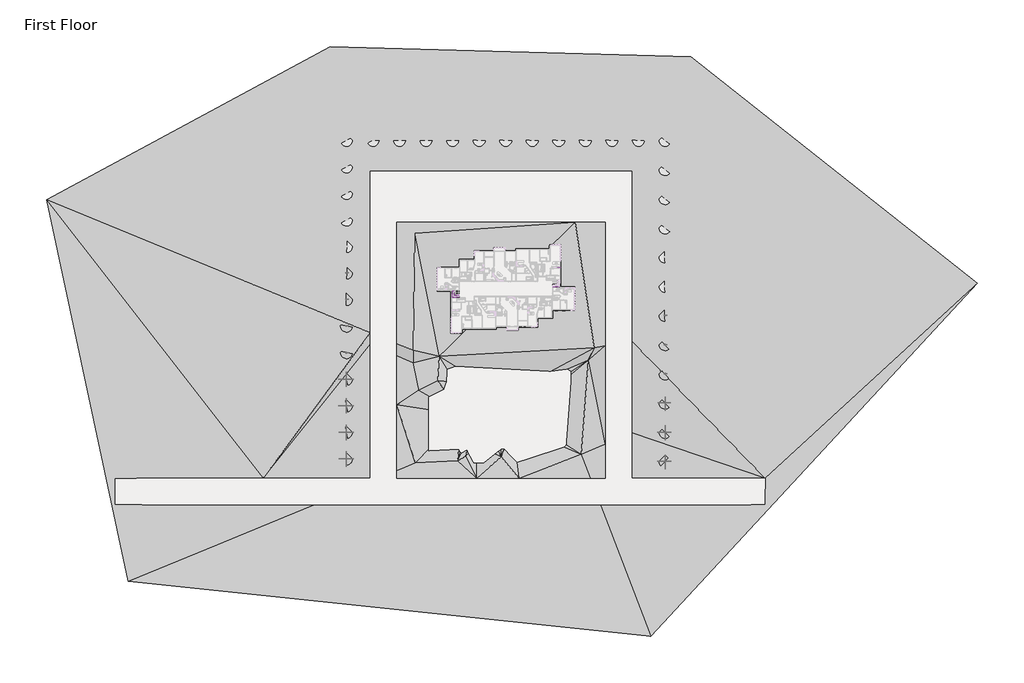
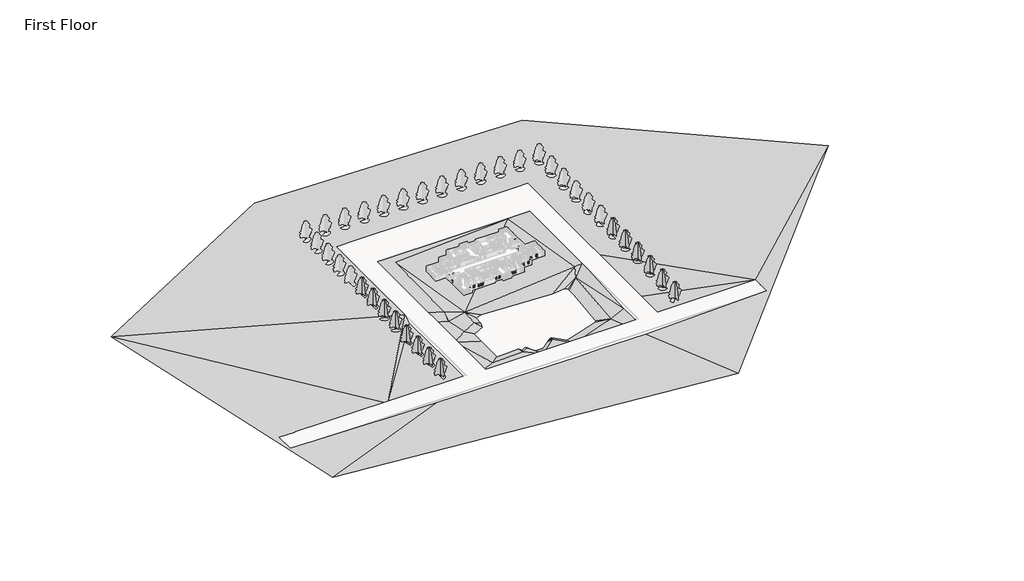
# One storey, part 16 of 17: 57 proxies, 14 geographic elements, 10 members, 5 furniture elements.
"""IFC4 building model written with IfcOpenShell, lengths in millimetres."""

from ifc_helpers import new_model, si_unit, frame, origin, place, context, project, spatial, polyline, outline, extrude, faceted_brep, triangles, transform, mapped, element, save
from components import muntin_pattern_2x2_muntin_pattern_2x2_6dad3731, muntin_pattern_2x2_muntin_pattern_2x2_a30a3345, trim_window_exterior_flat_with_sill_92b9b949, trim_window_interior_flat_picture_frame_3bb882cf, furniture_0fc2bd2a, furniture_338da5bd, base_cabinet_filler_base_cabinet_filler_dff9ed13, furniture_de2c603d, rpc_tree_deciduous_lombardy_poplar_40_01077960

model = new_model("IFC4")

# Units and contexts
model_context = context("Model", 3, world=origin())
ifc_project = project(units=[si_unit("LENGTHUNIT", "METRE", prefix="MILLI")], contexts=[model_context])

# Site, building, storey
site = spatial("IfcSite", under=ifc_project)
building = spatial("IfcBuilding", under=site)
storey = spatial("IfcBuildingStorey", under=building, Name="First Floor", Elevation=0.0)

# Proxies
placement = place(None, origin())
element("IfcBuildingElementProxy", 1, Name="Building Element Proxy", at=placement, inside=storey, context=model_context, shape_type="Tessellation", body=[
    triangles([(-48460.1211182, 110115.7437744, 304.8), (-178837.251416, 39743.5787476, 304.8), (-141203.4834229, -135541.2150879, 304.8), (98701.2405029, -160583.0167969, 304.8), (248652.2271973, 1448.9185364, 304.8), (116964.7861816, 105489.337793, 304.8), (-17909.1719604, 52775.2623779, -34.9011105), (31524.7850647, 52775.2623779, -33.965355), (83444.2275879, 52775.2623779, -25.0386334), (87495.8872559, 52775.2623779, -24.3420144), (89852.8503662, 52775.2623779, -16.2770543), (89852.8503662, 21778.2892822, -150.5260228), (89852.8503662, -25218.4676697, -153.5440435), (89852.8503662, -67179.4157227, -2621.8704872), (89852.8503662, -88050.3836426, -2028.6346046), (151203.4032715, -88050.3836426, -144.3150738), (151203.4032715, -100242.3836426, 202.2300071), (75573.8149658, -100242.3836426, -2120.6552959), (48310.8046509, -100242.3836426, -2152.7139496), (32115.7908508, -100242.3836426, -2209.8783382), (16618.5332977, -100242.3836426, -2240.1732914), (-55784.8461182, -100242.3836426, -1868.6651539), (-87584.1516357, -100242.3836426, -1043.9436916), (-95245.4514404, -100242.3836426, -874.3327509), (-147500.5967285, -100242.3836426, 276.5738341), (-147500.5967285, -88050.3836426, 218.9211758), (-79371.825, -88050.3836426, -1281.5979355), (-69064.3564819, -88050.3836426, -1509.7915649), (-30101.1719604, -88050.3836426, -2520.3098259), (-30101.1719604, -62400.0330322, -2489.8736023), (-30101.1719604, -50207.2470337, -2545.7216469), (-30101.1719604, -26457.4315796, -2658.0281639), (-30101.1719604, -21330.0398987, -143.8852944), (-30101.1719604, 26234.0940491, -142.1650779), (-30101.1719604, 52775.2623779, -15.6820642), (-22594.9766418, 52775.2623779, -34.989811), (77660.8457153, 29542.5921021, -158.6166445), (74508.0614136, 29542.5921021, -169.4047215), (63932.3022949, 29542.5921021, -171.2230516), (-12115.186084, 29542.5921021, -172.6625895), (-17909.1719604, 29542.5921021, -157.7590661), (-17909.1719604, 25126.7128052, -178.8031122), (-17909.1719604, -26336.2878113, -180.6643358), (-17909.1719604, -31883.9747681, -2900.8932816), (-17909.1719604, -40842.9814087, -2858.5284256), (-17909.1719604, -54373.7648071, -2796.551976), (-17909.1719604, -84590.4552979, -2832.4064735), (-17909.1719604, -88050.3836426, -2662.3273201), (33.4827991, -88050.3836426, -2754.3926308), (18662.0062408, -88050.3836426, -2717.9765396), (38129.2703064, -88050.3836426, -2649.2618385), (70900.8490356, -88050.3836426, -2610.7258186), (77660.8457153, -88050.3836426, -2403.0993931), (77660.8457153, -72448.4336426, -2846.5689812), (77660.8457153, -27265.8868835, -188.7339196), (77660.8457153, 23339.1009888, -185.4841906), (-9790.6477386, 24389.31828, -203.2000061), (71482.283313, 24130.0736389, -203.2000061), (72648.8818726, -28107.5517883, -203.2000061), (-10438.757016, -29403.770343, -203.2000061), (792.0111769, -43440.5251831, -3048.0), (-10524.3041199, -35170.9113464, -3048.0), (9923.4082397, -80131.3507324, -3048.0), (69995.6345215, -33865.1817444, -3048.0), (66731.3128418, -77171.8523071, -3048.0), (-9436.1972809, -81089.0411133, -3048.0), (29953.2856384, -78259.9579834, -3048.0), (13631.67724, -78042.3340576, -3048.0), (-7912.8472412, -47792.9525391, -3048.0), (1444.8756145, -32124.2089417, -3048.0), (8844.0049393, -44093.3876587, -6096.0), (27559.4503601, -56062.5687012, -9144.0), (31259.0152405, -56715.4358276, -9144.0), (31259.0152405, -53015.8709473, -9144.0), (29988.7997498, -54980.8068237, -9144.0), (29490.8138672, -55763.3590576, -9144.0), (30273.3637756, -55621.0747192, -9144.0), (30557.9254761, -56047.9230835, -9144.0), (29846.5177368, -55692.214563, -9144.0), (30202.2216064, -55478.7950317, -9144.0), (29704.2357239, -55549.9348755, -9144.0), (30202.2216064, -55336.5106934, -9144.0), (29704.2357239, -55336.5106934, -9144.0), (29775.3778931, -55336.5106934, -9144.0), (29846.5177368, -55336.5106934, -9144.0), (29988.7997498, -55478.7950317, -9144.0), (30131.0817627, -55549.9348755, -9144.0), (30131.0817627, -55763.3590576, -9144.0), (29988.7997498, -55692.214563, -9144.0), (29917.6575806, -55692.214563, -9144.0), (29917.6575806, -55549.9348755, -9144.0), (29917.6575806, -55478.7950317, -9144.0), (29775.3778931, -55478.7950317, -9144.0), (30344.5036194, -55692.214563, -9144.0), (29704.2357239, -55763.3590576, -9144.0), (30131.0817627, -55834.4989014, -9144.0), (29775.3778931, -55763.3590576, -9144.0), (29917.6575806, -55621.0747192, -9144.0), (30059.9395935, -55621.0747192, -9144.0), (29988.7997498, -55621.0747192, -9144.0), (30273.3637756, -54340.5389282, -9144.0), (30842.489502, -53202.2874756, -9144.0), (31198.1933716, -52562.0195801, -9144.0), (32478.7291626, -54340.5389282, -9144.0), (33545.8407715, -55763.3590576, -9144.0), (32905.572876, -57043.8948486, -9144.0), (29775.3778931, -58111.0064575, -9144.0), (27285.4484802, -58537.8501709, -9144.0), (24510.9550415, -57613.0182495, -9144.0), (25506.9268066, -55407.655188, -9144.0), (27427.7281677, -53984.8350586, -9144.0), (31696.1792542, -52704.2992676, -9144.0), (33190.1369019, -54055.9795532, -9144.0), (34186.108667, -56617.0464844, -9144.0), (32976.7150452, -57755.3025879, -9144.0), (11942.7059143, -58928.4170288, -9144.0), (20030.3796936, -59923.8260376, -9144.0), (21523.4908813, -60794.8054321, -9144.0), (23141.024707, -61416.9348999, -9144.0), (20154.8069824, -62536.7642212, -9144.0), (17666.2914368, -62785.6187988, -9144.0), (15799.9041962, -63283.3186523, -9144.0), (14555.6464233, -63781.0231567, -9144.0), (18910.5492096, -64403.1526245, -9144.0), (22270.0453125, -64776.4275146, -9144.0), (25131.8380737, -64652.0025513, -9144.0), (30482.1463806, -64154.3026978, -9144.0), (35085.9002563, -63781.0231567, -9144.0), (25380.6880005, -64776.4275146, -9144.0), (20776.9364502, -65647.4115601, -9144.0), (16048.7564484, -66393.9659912, -9144.0), (18537.271994, -66269.536377, -9144.0), (21772.3408081, -66891.6658447, -9144.0), (15675.4792328, -52831.5566162, -9144.0), (21274.6386292, -51338.4477539, -9144.0), (31353.1257751, -50467.4637085, -9144.0), (38445.3951965, -54946.7949463, -9144.0), (39067.5223389, -59426.1215332, -9144.0), (24385.2836426, -68260.3497437, -9144.0), (18288.4197418, -69006.9041748, -9144.0), (18786.1230835, -72864.1059448, -9144.0)], [[25, 3, 24], [3, 25, 2], [3, 23, 24], [25, 26, 2], [22, 23, 3], [2, 26, 27], [28, 31, 27], [47, 66, 46], [48, 66, 47], [29, 30, 28], [66, 49, 63], [49, 66, 48], [123, 63, 131], [50, 68, 63], [131, 63, 68], [66, 63, 116], [63, 49, 50], [63, 123, 116], [21, 22, 4], [30, 31, 28], [131, 141, 140], [132, 140, 133], [124, 131, 132], [132, 131, 140], [68, 50, 141], [131, 122, 123], [141, 131, 68], [139, 141, 67], [125, 130, 133], [130, 132, 133], [133, 140, 139], [126, 133, 139], [127, 129, 139], [140, 141, 139], [108, 129, 127], [124, 132, 130], [122, 124, 121], [124, 122, 131], [117, 121, 120], [120, 121, 124], [130, 120, 124], [116, 122, 121], [133, 126, 125], [126, 139, 129], [119, 118, 120], [119, 125, 126], [108, 119, 126], [118, 119, 109], [126, 129, 108], [119, 120, 125], [130, 125, 120], [116, 123, 122], [141, 50, 67], [22, 3, 4], [120, 118, 117], [33, 27, 32], [27, 33, 2], [45, 62, 44], [69, 62, 45], [60, 43, 44], [42, 43, 57], [45, 46, 69], [2, 34, 35], [2, 33, 34], [1, 35, 36], [35, 1, 2], [42, 40, 41], [57, 40, 42], [36, 7, 1], [1, 7, 8], [60, 44, 62], [32, 27, 31], [134, 116, 117], [117, 116, 121], [117, 109, 135], [110, 109, 72], [118, 109, 117], [110, 135, 109], [108, 72, 109], [76, 72, 107], [76, 95, 81], [107, 95, 76], [81, 95, 79], [72, 76, 111], [108, 107, 72], [110, 72, 111], [119, 108, 109], [76, 83, 111], [70, 62, 61], [69, 116, 61], [60, 57, 43], [70, 57, 60], [62, 70, 60], [61, 62, 69], [117, 135, 134], [135, 110, 111], [136, 70, 71], [71, 70, 61], [135, 71, 134], [135, 136, 71], [70, 39, 57], [71, 61, 116], [134, 71, 116], [135, 111, 136], [57, 39, 40], [116, 69, 46], [46, 66, 116], [76, 81, 83], [96, 107, 78], [95, 107, 96], [97, 96, 90], [97, 95, 96], [108, 127, 107], [95, 97, 79], [115, 107, 127], [67, 128, 127], [104, 94, 78], [78, 107, 73], [67, 50, 51], [115, 73, 107], [96, 78, 94], [79, 90, 98], [90, 96, 89], [98, 89, 100], [89, 98, 90], [79, 97, 90], [98, 81, 79], [88, 94, 77], [94, 88, 96], [99, 100, 89], [99, 88, 77], [99, 77, 87], [100, 99, 86], [77, 94, 82], [99, 89, 88], [88, 89, 96], [98, 100, 91], [104, 78, 73], [98, 91, 81], [18, 19, 4], [51, 52, 65], [17, 4, 5], [52, 53, 65], [17, 5, 16], [18, 4, 17], [19, 20, 4], [16, 14, 15], [106, 115, 114], [115, 106, 73], [137, 105, 114], [114, 105, 106], [115, 138, 114], [106, 105, 73], [138, 65, 64], [65, 53, 54], [65, 138, 128], [54, 64, 65], [137, 114, 138], [128, 138, 115], [65, 128, 51], [127, 128, 115], [16, 13, 14], [128, 67, 51], [20, 21, 4], [73, 105, 104], [83, 93, 84], [83, 81, 93], [84, 85, 75], [85, 84, 93], [93, 92, 85], [83, 84, 75], [100, 86, 91], [86, 99, 87], [91, 86, 92], [86, 87, 80], [85, 86, 82], [92, 86, 85], [77, 80, 87], [91, 92, 93], [81, 91, 93], [82, 86, 80], [75, 82, 101], [82, 75, 85], [103, 111, 102], [104, 74, 102], [104, 102, 101], [111, 101, 102], [74, 112, 103], [104, 112, 74], [59, 70, 136], [136, 103, 112], [111, 103, 136], [136, 112, 113], [74, 103, 102], [82, 104, 101], [75, 101, 111], [80, 77, 82], [83, 75, 111], [105, 113, 104], [94, 104, 82], [136, 113, 137], [136, 137, 64], [138, 64, 137], [136, 64, 59], [58, 59, 55], [55, 59, 64], [13, 5, 12], [12, 5, 11], [64, 54, 55], [39, 70, 59], [16, 5, 13], [58, 56, 38], [56, 58, 55], [38, 39, 58], [56, 37, 38], [58, 39, 59], [10, 11, 6], [10, 6, 9], [6, 8, 9], [5, 6, 11], [113, 112, 104], [137, 113, 105], [8, 6, 1], [139, 67, 127]], closed=False),
])
muntin_pattern_2x2_muntin_pattern_2x2_shape = muntin_pattern_2x2_muntin_pattern_2x2_6dad3731(model_context)
element("IfcBuildingElementProxy", 2, Name="Muntin Pattern_2x2 : Muntin Pattern_2x2", ObjectType="Muntin Pattern_2x2 : Muntin Pattern_2x2", at=placement, inside=storey, context=model_context, shape_type="MappedRepresentation", body=[
    mapped(muntin_pattern_2x2_muntin_pattern_2x2_shape, transform((6897.2956159, -8816.1337391, 984.25), x_axis=(0.0, 1.0, 0.0), y_axis=(-1.0, 0.0, 0.0), z_axis=(0.0, 0.0, 1.0))),
])
element("IfcBuildingElementProxy", 3, Name="Muntin Pattern_2x2 : Muntin Pattern_2x2", ObjectType="Muntin Pattern_2x2 : Muntin Pattern_2x2", at=placement, inside=storey, context=model_context, shape_type="MappedRepresentation", body=[
    mapped(muntin_pattern_2x2_muntin_pattern_2x2_shape, transform((20022.0240862, -19586.3365506, 984.25), x_axis=(-1.0, 0.0, 0.0), y_axis=(0.0, -1.0, 0.0), z_axis=(0.0, 0.0, 1.0))),
])
element("IfcBuildingElementProxy", 4, Name="Muntin Pattern_2x2 : Muntin Pattern_2x2", ObjectType="Muntin Pattern_2x2 : Muntin Pattern_2x2", at=placement, inside=storey, context=model_context, shape_type="MappedRepresentation", body=[
    mapped(muntin_pattern_2x2_muntin_pattern_2x2_shape, transform((14867.9478712, -19586.3365506, 984.25), x_axis=(-1.0, 0.0, 0.0), y_axis=(0.0, -1.0, 0.0), z_axis=(0.0, 0.0, 1.0))),
])
element("IfcBuildingElementProxy", 5, Name="Muntin Pattern_2x2 : Muntin Pattern_2x2", ObjectType="Muntin Pattern_2x2 : Muntin Pattern_2x2", at=placement, inside=storey, context=model_context, shape_type="MappedRepresentation", body=[
    mapped(muntin_pattern_2x2_muntin_pattern_2x2_shape, transform((58934.1771499, -11052.2879097, 984.25), x_axis=(-1.0, 0.0, 0.0), y_axis=(0.0, -1.0, 0.0), z_axis=(0.0, 0.0, 1.0))),
])
element("IfcBuildingElementProxy", 6, Name="Muntin Pattern_2x2 : Muntin Pattern_2x2", ObjectType="Muntin Pattern_2x2 : Muntin Pattern_2x2", at=placement, inside=storey, context=model_context, shape_type="MappedRepresentation", body=[
    mapped(muntin_pattern_2x2_muntin_pattern_2x2_shape, transform((55448.1837704, -11052.2879097, 984.25), x_axis=(-1.0, 0.0, 0.0), y_axis=(0.0, -1.0, 0.0), z_axis=(0.0, 0.0, 1.0))),
])
element("IfcBuildingElementProxy", 7, Name="Muntin Pattern_2x2 : Muntin Pattern_2x2", ObjectType="Muntin Pattern_2x2 : Muntin Pattern_2x2", at=placement, inside=storey, context=model_context, shape_type="MappedRepresentation", body=[
    mapped(muntin_pattern_2x2_muntin_pattern_2x2_shape, transform((53498.7337704, -12446.1129097, 984.25), x_axis=(0.0, -1.0, 0.0), y_axis=(1.0, 0.0, 0.0), z_axis=(0.0, 0.0, 1.0))),
])
element("IfcBuildingElementProxy", 8, Name="Muntin Pattern_2x2 : Muntin Pattern_2x2", ObjectType="Muntin Pattern_2x2 : Muntin Pattern_2x2", at=placement, inside=storey, context=model_context, shape_type="MappedRepresentation", body=[
    mapped(muntin_pattern_2x2_muntin_pattern_2x2_shape, transform((51847.7416075, -14709.8879097, 984.25), x_axis=(-1.0, 0.0, 0.0), y_axis=(0.0, -1.0, 0.0), z_axis=(0.0, 0.0, 1.0))),
])
element("IfcBuildingElementProxy", 9, Name="Muntin Pattern_2x2 : Muntin Pattern_2x2", ObjectType="Muntin Pattern_2x2 : Muntin Pattern_2x2", at=placement, inside=storey, context=model_context, shape_type="MappedRepresentation", body=[
    mapped(muntin_pattern_2x2_muntin_pattern_2x2_shape, transform((48419.9208351, -14709.8879097, 984.25), x_axis=(-1.0, 0.0, 0.0), y_axis=(0.0, -1.0, 0.0), z_axis=(0.0, 0.0, 1.0))),
])
element("IfcBuildingElementProxy", 10, Name="Muntin Pattern_2x2 : Muntin Pattern_2x2", ObjectType="Muntin Pattern_2x2 : Muntin Pattern_2x2", at=placement, inside=storey, context=model_context, shape_type="MappedRepresentation", body=[
    mapped(muntin_pattern_2x2_muntin_pattern_2x2_shape, transform((41098.7095292, -18687.4243072, 984.25), x_axis=(-1.0, 0.0, 0.0), y_axis=(0.0, -1.0, 0.0), z_axis=(0.0, 0.0, 1.0))),
])
element("IfcBuildingElementProxy", 11, Name="Muntin Pattern_2x2 : Muntin Pattern_2x2", ObjectType="Muntin Pattern_2x2 : Muntin Pattern_2x2", at=placement, inside=storey, context=model_context, shape_type="MappedRepresentation", body=[
    mapped(muntin_pattern_2x2_muntin_pattern_2x2_shape, transform((39150.8470292, -18687.4243072, 984.25), x_axis=(-1.0, 0.0, 0.0), y_axis=(0.0, -1.0, 0.0), z_axis=(0.0, 0.0, 1.0))),
])
element("IfcBuildingElementProxy", 12, Name="Muntin Pattern_2x2 : Muntin Pattern_2x2", ObjectType="Muntin Pattern_2x2 : Muntin Pattern_2x2", at=placement, inside=storey, context=model_context, shape_type="MappedRepresentation", body=[
    mapped(muntin_pattern_2x2_muntin_pattern_2x2_shape, transform((31256.6745389, -18699.3191587, 984.25), x_axis=(-1.0, 0.0, 0.0), y_axis=(0.0, -1.0, 0.0), z_axis=(0.0, 0.0, 1.0))),
])
element("IfcBuildingElementProxy", 13, Name="Muntin Pattern_2x2 : Muntin Pattern_2x2", ObjectType="Muntin Pattern_2x2 : Muntin Pattern_2x2", at=placement, inside=storey, context=model_context, shape_type="MappedRepresentation", body=[
    mapped(muntin_pattern_2x2_muntin_pattern_2x2_shape, transform((29037.4365862, -18699.3191587, 984.25), x_axis=(-1.0, 0.0, 0.0), y_axis=(0.0, -1.0, 0.0), z_axis=(0.0, 0.0, 1.0))),
])
element("IfcBuildingElementProxy", 14, Name="Muntin Pattern_2x2 : Muntin Pattern_2x2", ObjectType="Muntin Pattern_2x2 : Muntin Pattern_2x2", at=placement, inside=storey, context=model_context, shape_type="MappedRepresentation", body=[
    mapped(muntin_pattern_2x2_muntin_pattern_2x2_shape, transform((18076.672872, -19586.3365506, 984.25), x_axis=(-1.0, 0.0, 0.0), y_axis=(0.0, -1.0, 0.0), z_axis=(0.0, 0.0, 1.0))),
])
element("IfcBuildingElementProxy", 15, Name="Muntin Pattern_2x2 : Muntin Pattern_2x2", ObjectType="Muntin Pattern_2x2 : Muntin Pattern_2x2", at=placement, inside=storey, context=model_context, shape_type="MappedRepresentation", body=[
    mapped(muntin_pattern_2x2_muntin_pattern_2x2_shape, transform((12023.5634633, -20077.9243287, 984.25), x_axis=(0.0, -1.0, 0.0), y_axis=(1.0, 0.0, 0.0), z_axis=(0.0, 0.0, 1.0))),
])
muntin_pattern_2x2_muntin_pattern_2x2_2_shape = muntin_pattern_2x2_muntin_pattern_2x2_a30a3345(model_context)
element("IfcBuildingElementProxy", 16, Name="Muntin Pattern_2x2 : Muntin Pattern_2x2", ObjectType="Muntin Pattern_2x2 : Muntin Pattern_2x2", at=placement, inside=storey, context=model_context, shape_type="MappedRepresentation", body=[
    mapped(muntin_pattern_2x2_muntin_pattern_2x2_2_shape, transform((6897.2956159, -8209.7087391, 984.25), x_axis=(0.0, -1.0, 0.0), y_axis=(1.0, 0.0, 0.0), z_axis=(0.0, 0.0, 1.0))),
])
element("IfcBuildingElementProxy", 17, Name="Muntin Pattern_2x2 : Muntin Pattern_2x2", ObjectType="Muntin Pattern_2x2 : Muntin Pattern_2x2", at=placement, inside=storey, context=model_context, shape_type="MappedRepresentation", body=[
    mapped(muntin_pattern_2x2_muntin_pattern_2x2_2_shape, transform((19415.5990862, -19586.3365506, 984.25), x_axis=(1.0, 0.0, 0.0), y_axis=(0.0, 1.0, 0.0), z_axis=(0.0, 0.0, 1.0))),
])
element("IfcBuildingElementProxy", 18, Name="Muntin Pattern_2x2 : Muntin Pattern_2x2", ObjectType="Muntin Pattern_2x2 : Muntin Pattern_2x2", at=placement, inside=storey, context=model_context, shape_type="MappedRepresentation", body=[
    mapped(muntin_pattern_2x2_muntin_pattern_2x2_2_shape, transform((14261.5228712, -19586.3365506, 984.25), x_axis=(1.0, 0.0, 0.0), y_axis=(0.0, 1.0, 0.0), z_axis=(0.0, 0.0, 1.0))),
])
element("IfcBuildingElementProxy", 19, Name="Muntin Pattern_2x2 : Muntin Pattern_2x2", ObjectType="Muntin Pattern_2x2 : Muntin Pattern_2x2", at=placement, inside=storey, context=model_context, shape_type="MappedRepresentation", body=[
    mapped(muntin_pattern_2x2_muntin_pattern_2x2_2_shape, transform((58327.7521499, -11052.2879097, 984.25), x_axis=(1.0, 0.0, 0.0), y_axis=(0.0, 1.0, 0.0), z_axis=(0.0, 0.0, 1.0))),
])
element("IfcBuildingElementProxy", 20, Name="Muntin Pattern_2x2 : Muntin Pattern_2x2", ObjectType="Muntin Pattern_2x2 : Muntin Pattern_2x2", at=placement, inside=storey, context=model_context, shape_type="MappedRepresentation", body=[
    mapped(muntin_pattern_2x2_muntin_pattern_2x2_2_shape, transform((54841.7587704, -11052.2879097, 984.25), x_axis=(1.0, 0.0, 0.0), y_axis=(0.0, 1.0, 0.0), z_axis=(0.0, 0.0, 1.0))),
])
element("IfcBuildingElementProxy", 21, Name="Muntin Pattern_2x2 : Muntin Pattern_2x2", ObjectType="Muntin Pattern_2x2 : Muntin Pattern_2x2", at=placement, inside=storey, context=model_context, shape_type="MappedRepresentation", body=[
    mapped(muntin_pattern_2x2_muntin_pattern_2x2_2_shape, transform((53498.7337704, -13052.5379097, 984.25), x_axis=(0.0, 1.0, 0.0), y_axis=(-1.0, 0.0, 0.0), z_axis=(0.0, 0.0, 1.0))),
])
element("IfcBuildingElementProxy", 22, Name="Muntin Pattern_2x2 : Muntin Pattern_2x2", ObjectType="Muntin Pattern_2x2 : Muntin Pattern_2x2", at=placement, inside=storey, context=model_context, shape_type="MappedRepresentation", body=[
    mapped(muntin_pattern_2x2_muntin_pattern_2x2_2_shape, transform((51241.3166075, -14709.8879097, 984.25), x_axis=(1.0, 0.0, 0.0), y_axis=(0.0, 1.0, 0.0), z_axis=(0.0, 0.0, 1.0))),
])
element("IfcBuildingElementProxy", 23, Name="Muntin Pattern_2x2 : Muntin Pattern_2x2", ObjectType="Muntin Pattern_2x2 : Muntin Pattern_2x2", at=placement, inside=storey, context=model_context, shape_type="MappedRepresentation", body=[
    mapped(muntin_pattern_2x2_muntin_pattern_2x2_2_shape, transform((47813.4958351, -14709.8879097, 984.25), x_axis=(1.0, 0.0, 0.0), y_axis=(0.0, 1.0, 0.0), z_axis=(0.0, 0.0, 1.0))),
])
element("IfcBuildingElementProxy", 24, Name="Muntin Pattern_2x2 : Muntin Pattern_2x2", ObjectType="Muntin Pattern_2x2 : Muntin Pattern_2x2", at=placement, inside=storey, context=model_context, shape_type="MappedRepresentation", body=[
    mapped(muntin_pattern_2x2_muntin_pattern_2x2_2_shape, transform((40492.2845292, -18687.4243072, 984.25), x_axis=(1.0, 0.0, 0.0), y_axis=(0.0, 1.0, 0.0), z_axis=(0.0, 0.0, 1.0))),
])
element("IfcBuildingElementProxy", 25, Name="Muntin Pattern_2x2 : Muntin Pattern_2x2", ObjectType="Muntin Pattern_2x2 : Muntin Pattern_2x2", at=placement, inside=storey, context=model_context, shape_type="MappedRepresentation", body=[
    mapped(muntin_pattern_2x2_muntin_pattern_2x2_2_shape, transform((38544.4220292, -18687.4243072, 984.25), x_axis=(1.0, 0.0, 0.0), y_axis=(0.0, 1.0, 0.0), z_axis=(0.0, 0.0, 1.0))),
])
element("IfcBuildingElementProxy", 26, Name="Muntin Pattern_2x2 : Muntin Pattern_2x2", ObjectType="Muntin Pattern_2x2 : Muntin Pattern_2x2", at=placement, inside=storey, context=model_context, shape_type="MappedRepresentation", body=[
    mapped(muntin_pattern_2x2_muntin_pattern_2x2_2_shape, transform((30650.2495389, -18699.3191587, 984.25), x_axis=(1.0, 0.0, 0.0), y_axis=(0.0, 1.0, 0.0), z_axis=(0.0, 0.0, 1.0))),
])
element("IfcBuildingElementProxy", 27, Name="Muntin Pattern_2x2 : Muntin Pattern_2x2", ObjectType="Muntin Pattern_2x2 : Muntin Pattern_2x2", at=placement, inside=storey, context=model_context, shape_type="MappedRepresentation", body=[
    mapped(muntin_pattern_2x2_muntin_pattern_2x2_2_shape, transform((28431.0115862, -18699.3191587, 984.25), x_axis=(1.0, 0.0, 0.0), y_axis=(0.0, 1.0, 0.0), z_axis=(0.0, 0.0, 1.0))),
])
element("IfcBuildingElementProxy", 28, Name="Muntin Pattern_2x2 : Muntin Pattern_2x2", ObjectType="Muntin Pattern_2x2 : Muntin Pattern_2x2", at=placement, inside=storey, context=model_context, shape_type="MappedRepresentation", body=[
    mapped(muntin_pattern_2x2_muntin_pattern_2x2_2_shape, transform((17470.247872, -19586.3365506, 984.25), x_axis=(1.0, 0.0, 0.0), y_axis=(0.0, 1.0, 0.0), z_axis=(0.0, 0.0, 1.0))),
])
element("IfcBuildingElementProxy", 29, Name="Muntin Pattern_2x2 : Muntin Pattern_2x2", ObjectType="Muntin Pattern_2x2 : Muntin Pattern_2x2", at=placement, inside=storey, context=model_context, shape_type="MappedRepresentation", body=[
    mapped(muntin_pattern_2x2_muntin_pattern_2x2_2_shape, transform((12023.5634633, -20684.3493287, 984.25), x_axis=(0.0, 1.0, 0.0), y_axis=(-1.0, 0.0, 0.0), z_axis=(0.0, 0.0, 1.0))),
])
trim_window_exterior_flat_with_sill_shape = trim_window_exterior_flat_with_sill_92b9b949(model_context)
element("IfcBuildingElementProxy", 30, Name="Trim-Window-Exterior-Flat : with Sill", ObjectType="Trim-Window-Exterior-Flat : with Sill", at=placement, inside=storey, context=model_context, shape_type="MappedRepresentation", body=[
    mapped(trim_window_exterior_flat_with_sill_shape, transform((6887.7706159, -8512.9212391, 2438.4), x_axis=(0.0, -1.0, 0.0), y_axis=(0.0, 0.0, 1.0), z_axis=(-1.0, 0.0, 0.0))),
])
element("IfcBuildingElementProxy", 31, Name="Trim-Window-Exterior-Flat : with Sill", ObjectType="Trim-Window-Exterior-Flat : with Sill", at=placement, inside=storey, context=model_context, shape_type="MappedRepresentation", body=[
    mapped(trim_window_exterior_flat_with_sill_shape, transform((19718.8115862, -19595.8615506, 2438.4), x_axis=(1.0, 0.0, 0.0), y_axis=(0.0, 0.0, 1.0), z_axis=(0.0, -1.0, 0.0))),
])
element("IfcBuildingElementProxy", 32, Name="Trim-Window-Exterior-Flat : with Sill", ObjectType="Trim-Window-Exterior-Flat : with Sill", at=placement, inside=storey, context=model_context, shape_type="MappedRepresentation", body=[
    mapped(trim_window_exterior_flat_with_sill_shape, transform((14564.7353712, -19595.8615506, 2438.4), x_axis=(1.0, 0.0, 0.0), y_axis=(0.0, 0.0, 1.0), z_axis=(0.0, -1.0, 0.0))),
])
element("IfcBuildingElementProxy", 33, Name="Trim-Window-Exterior-Flat : with Sill", ObjectType="Trim-Window-Exterior-Flat : with Sill", at=placement, inside=storey, context=model_context, shape_type="MappedRepresentation", body=[
    mapped(trim_window_exterior_flat_with_sill_shape, transform((58630.9646499, -11061.8129097, 2438.4), x_axis=(1.0, 0.0, 0.0), y_axis=(0.0, 0.0, 1.0), z_axis=(0.0, -1.0, 0.0))),
])
element("IfcBuildingElementProxy", 34, Name="Trim-Window-Exterior-Flat : with Sill", ObjectType="Trim-Window-Exterior-Flat : with Sill", at=placement, inside=storey, context=model_context, shape_type="MappedRepresentation", body=[
    mapped(trim_window_exterior_flat_with_sill_shape, transform((55144.9712704, -11061.8129097, 2438.4), x_axis=(1.0, 0.0, 0.0), y_axis=(0.0, 0.0, 1.0), z_axis=(0.0, -1.0, 0.0))),
])
element("IfcBuildingElementProxy", 35, Name="Trim-Window-Exterior-Flat : with Sill", ObjectType="Trim-Window-Exterior-Flat : with Sill", at=placement, inside=storey, context=model_context, shape_type="MappedRepresentation", body=[
    mapped(trim_window_exterior_flat_with_sill_shape, transform((53508.2587704, -12749.3254097, 2438.4), x_axis=(0.0, 1.0, 0.0), y_axis=(0.0, 0.0, 1.0), z_axis=(1.0, 0.0, 0.0))),
])
element("IfcBuildingElementProxy", 36, Name="Trim-Window-Exterior-Flat : with Sill", ObjectType="Trim-Window-Exterior-Flat : with Sill", at=placement, inside=storey, context=model_context, shape_type="MappedRepresentation", body=[
    mapped(trim_window_exterior_flat_with_sill_shape, transform((51544.5291075, -14719.4129097, 2438.4), x_axis=(1.0, 0.0, 0.0), y_axis=(0.0, 0.0, 1.0), z_axis=(0.0, -1.0, 0.0))),
])
element("IfcBuildingElementProxy", 37, Name="Trim-Window-Exterior-Flat : with Sill", ObjectType="Trim-Window-Exterior-Flat : with Sill", at=placement, inside=storey, context=model_context, shape_type="MappedRepresentation", body=[
    mapped(trim_window_exterior_flat_with_sill_shape, transform((48116.7083351, -14719.4129097, 2438.4), x_axis=(1.0, 0.0, 0.0), y_axis=(0.0, 0.0, 1.0), z_axis=(0.0, -1.0, 0.0))),
])
element("IfcBuildingElementProxy", 38, Name="Trim-Window-Exterior-Flat : with Sill", ObjectType="Trim-Window-Exterior-Flat : with Sill", at=placement, inside=storey, context=model_context, shape_type="MappedRepresentation", body=[
    mapped(trim_window_exterior_flat_with_sill_shape, transform((40795.4970292, -18696.9493072, 2438.4), x_axis=(1.0, 0.0, 0.0), y_axis=(0.0, 0.0, 1.0), z_axis=(0.0, -1.0, 0.0))),
])
element("IfcBuildingElementProxy", 39, Name="Trim-Window-Exterior-Flat : with Sill", ObjectType="Trim-Window-Exterior-Flat : with Sill", at=placement, inside=storey, context=model_context, shape_type="MappedRepresentation", body=[
    mapped(trim_window_exterior_flat_with_sill_shape, transform((38847.6345292, -18696.9493072, 2438.4), x_axis=(1.0, 0.0, 0.0), y_axis=(0.0, 0.0, 1.0), z_axis=(0.0, -1.0, 0.0))),
])
element("IfcBuildingElementProxy", 40, Name="Trim-Window-Exterior-Flat : with Sill", ObjectType="Trim-Window-Exterior-Flat : with Sill", at=placement, inside=storey, context=model_context, shape_type="MappedRepresentation", body=[
    mapped(trim_window_exterior_flat_with_sill_shape, transform((30953.4620389, -18708.8441587, 2438.4), x_axis=(1.0, 0.0, 0.0), y_axis=(0.0, 0.0, 1.0), z_axis=(0.0, -1.0, 0.0))),
])
element("IfcBuildingElementProxy", 41, Name="Trim-Window-Exterior-Flat : with Sill", ObjectType="Trim-Window-Exterior-Flat : with Sill", at=placement, inside=storey, context=model_context, shape_type="MappedRepresentation", body=[
    mapped(trim_window_exterior_flat_with_sill_shape, transform((28734.2240862, -18708.8441587, 2438.4), x_axis=(1.0, 0.0, 0.0), y_axis=(0.0, 0.0, 1.0), z_axis=(0.0, -1.0, 0.0))),
])
element("IfcBuildingElementProxy", 42, Name="Trim-Window-Exterior-Flat : with Sill", ObjectType="Trim-Window-Exterior-Flat : with Sill", at=placement, inside=storey, context=model_context, shape_type="MappedRepresentation", body=[
    mapped(trim_window_exterior_flat_with_sill_shape, transform((17773.460372, -19595.8615506, 2438.4), x_axis=(1.0, 0.0, 0.0), y_axis=(0.0, 0.0, 1.0), z_axis=(0.0, -1.0, 0.0))),
])
element("IfcBuildingElementProxy", 43, Name="Trim-Window-Exterior-Flat : with Sill", ObjectType="Trim-Window-Exterior-Flat : with Sill", at=placement, inside=storey, context=model_context, shape_type="MappedRepresentation", body=[
    mapped(trim_window_exterior_flat_with_sill_shape, transform((12033.0884633, -20381.1368287, 2438.4), x_axis=(0.0, 1.0, 0.0), y_axis=(0.0, 0.0, 1.0), z_axis=(1.0, 0.0, 0.0))),
])
trim_window_interior_flat_picture_frame_shape = trim_window_interior_flat_picture_frame_3bb882cf(model_context)
element("IfcBuildingElementProxy", 44, Name="Trim-Window-Interior-Flat : Picture Frame", ObjectType="Trim-Window-Interior-Flat : Picture Frame", at=placement, inside=storey, context=model_context, shape_type="MappedRepresentation", body=[
    mapped(trim_window_interior_flat_picture_frame_shape, transform((7170.3456159, -8512.9212391, 2438.4), x_axis=(0.0, 1.0, 0.0), y_axis=(0.0, 0.0, 1.0), z_axis=(1.0, 0.0, 0.0))),
])
element("IfcBuildingElementProxy", 45, Name="Trim-Window-Interior-Flat : Picture Frame", ObjectType="Trim-Window-Interior-Flat : Picture Frame", at=placement, inside=storey, context=model_context, shape_type="MappedRepresentation", body=[
    mapped(trim_window_interior_flat_picture_frame_shape, transform((19718.8115862, -19313.2865506, 2438.4), x_axis=(-1.0, 0.0, 0.0), y_axis=(0.0, 0.0, 1.0), z_axis=(0.0, 1.0, 0.0))),
])
element("IfcBuildingElementProxy", 46, Name="Trim-Window-Interior-Flat : Picture Frame", ObjectType="Trim-Window-Interior-Flat : Picture Frame", at=placement, inside=storey, context=model_context, shape_type="MappedRepresentation", body=[
    mapped(trim_window_interior_flat_picture_frame_shape, transform((14564.7353712, -19313.2865506, 2438.4), x_axis=(-1.0, 0.0, 0.0), y_axis=(0.0, 0.0, 1.0), z_axis=(0.0, 1.0, 0.0))),
])
element("IfcBuildingElementProxy", 47, Name="Trim-Window-Interior-Flat : Picture Frame", ObjectType="Trim-Window-Interior-Flat : Picture Frame", at=placement, inside=storey, context=model_context, shape_type="MappedRepresentation", body=[
    mapped(trim_window_interior_flat_picture_frame_shape, transform((58630.9646499, -10779.2379097, 2438.4), x_axis=(-1.0, 0.0, 0.0), y_axis=(0.0, 0.0, 1.0), z_axis=(0.0, 1.0, 0.0))),
])
element("IfcBuildingElementProxy", 48, Name="Trim-Window-Interior-Flat : Picture Frame", ObjectType="Trim-Window-Interior-Flat : Picture Frame", at=placement, inside=storey, context=model_context, shape_type="MappedRepresentation", body=[
    mapped(trim_window_interior_flat_picture_frame_shape, transform((55144.9712704, -10779.2379097, 2438.4), x_axis=(-1.0, 0.0, 0.0), y_axis=(0.0, 0.0, 1.0), z_axis=(0.0, 1.0, 0.0))),
])
element("IfcBuildingElementProxy", 49, Name="Trim-Window-Interior-Flat : Picture Frame", ObjectType="Trim-Window-Interior-Flat : Picture Frame", at=placement, inside=storey, context=model_context, shape_type="MappedRepresentation", body=[
    mapped(trim_window_interior_flat_picture_frame_shape, transform((53225.6837704, -12749.3254097, 2438.4), x_axis=(0.0, -1.0, 0.0), y_axis=(0.0, 0.0, 1.0), z_axis=(-1.0, 0.0, 0.0))),
])
element("IfcBuildingElementProxy", 50, Name="Trim-Window-Interior-Flat : Picture Frame", ObjectType="Trim-Window-Interior-Flat : Picture Frame", at=placement, inside=storey, context=model_context, shape_type="MappedRepresentation", body=[
    mapped(trim_window_interior_flat_picture_frame_shape, transform((51544.5291075, -14436.8379097, 2438.4), x_axis=(-1.0, 0.0, 0.0), y_axis=(0.0, 0.0, 1.0), z_axis=(0.0, 1.0, 0.0))),
])
element("IfcBuildingElementProxy", 51, Name="Trim-Window-Interior-Flat : Picture Frame", ObjectType="Trim-Window-Interior-Flat : Picture Frame", at=placement, inside=storey, context=model_context, shape_type="MappedRepresentation", body=[
    mapped(trim_window_interior_flat_picture_frame_shape, transform((48116.7083351, -14436.8379097, 2438.4), x_axis=(-1.0, 0.0, 0.0), y_axis=(0.0, 0.0, 1.0), z_axis=(0.0, 1.0, 0.0))),
])
element("IfcBuildingElementProxy", 52, Name="Trim-Window-Interior-Flat : Picture Frame", ObjectType="Trim-Window-Interior-Flat : Picture Frame", at=placement, inside=storey, context=model_context, shape_type="MappedRepresentation", body=[
    mapped(trim_window_interior_flat_picture_frame_shape, transform((40795.4970292, -18414.3743072, 2438.4), x_axis=(-1.0, 0.0, 0.0), y_axis=(0.0, 0.0, 1.0), z_axis=(0.0, 1.0, 0.0))),
])
element("IfcBuildingElementProxy", 53, Name="Trim-Window-Interior-Flat : Picture Frame", ObjectType="Trim-Window-Interior-Flat : Picture Frame", at=placement, inside=storey, context=model_context, shape_type="MappedRepresentation", body=[
    mapped(trim_window_interior_flat_picture_frame_shape, transform((38847.6345292, -18414.3743072, 2438.4), x_axis=(-1.0, 0.0, 0.0), y_axis=(0.0, 0.0, 1.0), z_axis=(0.0, 1.0, 0.0))),
])
element("IfcBuildingElementProxy", 54, Name="Trim-Window-Interior-Flat : Picture Frame", ObjectType="Trim-Window-Interior-Flat : Picture Frame", at=placement, inside=storey, context=model_context, shape_type="MappedRepresentation", body=[
    mapped(trim_window_interior_flat_picture_frame_shape, transform((30953.4620389, -18426.2691587, 2438.4), x_axis=(-1.0, 0.0, 0.0), y_axis=(0.0, 0.0, 1.0), z_axis=(0.0, 1.0, 0.0))),
])
element("IfcBuildingElementProxy", 55, Name="Trim-Window-Interior-Flat : Picture Frame", ObjectType="Trim-Window-Interior-Flat : Picture Frame", at=placement, inside=storey, context=model_context, shape_type="MappedRepresentation", body=[
    mapped(trim_window_interior_flat_picture_frame_shape, transform((28734.2240862, -18426.2691587, 2438.4), x_axis=(-1.0, 0.0, 0.0), y_axis=(0.0, 0.0, 1.0), z_axis=(0.0, 1.0, 0.0))),
])
element("IfcBuildingElementProxy", 56, Name="Trim-Window-Interior-Flat : Picture Frame", ObjectType="Trim-Window-Interior-Flat : Picture Frame", at=placement, inside=storey, context=model_context, shape_type="MappedRepresentation", body=[
    mapped(trim_window_interior_flat_picture_frame_shape, transform((17773.460372, -19313.2865506, 2438.4), x_axis=(-1.0, 0.0, 0.0), y_axis=(0.0, 0.0, 1.0), z_axis=(0.0, 1.0, 0.0))),
])
element("IfcBuildingElementProxy", 57, Name="Trim-Window-Interior-Flat : Picture Frame", ObjectType="Trim-Window-Interior-Flat : Picture Frame", at=placement, inside=storey, context=model_context, shape_type="MappedRepresentation", body=[
    mapped(trim_window_interior_flat_picture_frame_shape, transform((11750.5134633, -20381.1368287, 2438.4), x_axis=(0.0, -1.0, 0.0), y_axis=(0.0, 0.0, 1.0), z_axis=(-1.0, 0.0, 0.0))),
])

# Furniture
furniture_shape = furniture_0fc2bd2a(model_context)
element("IfcFurniture", 58, ObjectType="Base Cabinet-Single Door & Drawer : 15\"'", at=placement, inside=storey, context=model_context, shape_type="MappedRepresentation", body=[
    mapped(furniture_shape, transform((56797.1256323, 10752.2240109, 0.0), x_axis=(1.0, 0.0, 0.0), y_axis=(0.0, 1.0, 0.0), z_axis=(0.0, 0.0, 1.0))),
])
furniture_2_shape = furniture_338da5bd(model_context)
element("IfcFurniture", 59, ObjectType="Base Cabinet-Double Door & 2 Drawer : 30\"", at=placement, inside=storey, context=model_context, shape_type="MappedRepresentation", body=[
    mapped(furniture_2_shape, transform((56225.6256323, 10752.2240109, 0.0), x_axis=(1.0, 0.0, 0.0), y_axis=(0.0, 1.0, 0.0), z_axis=(0.0, 0.0, 1.0))),
])
base_cabinet_filler_base_cabinet_filler_shape = base_cabinet_filler_base_cabinet_filler_dff9ed13(model_context)
element("IfcFurniture", 60, ObjectType="Base Cabinet-Filler : Base Cabinet-Filler", at=placement, inside=storey, context=model_context, shape_type="MappedRepresentation", body=[
    mapped(base_cabinet_filler_base_cabinet_filler_shape, transform((56569.4362184, 8422.9542414, 0.0), x_axis=(-1.0, 0.0, 0.0), y_axis=(0.0, -1.0, 0.0), z_axis=(0.0, 0.0, 1.0))),
])
furniture_3_shape = furniture_de2c603d(model_context)
element("IfcFurniture", 61, ObjectType="Upper Cabinet-Double Door-Wall : 24\"", at=placement, inside=storey, context=model_context, shape_type="MappedRepresentation", body=[
    mapped(furniture_3_shape, transform((56674.1251076, 8368.7667096, 0.0), x_axis=(1.0, 0.0, 0.0), y_axis=(0.0, 1.0, 0.0), z_axis=(0.0, 0.0, 1.0))),
])
element("IfcFurniture", 62, ObjectType="Upper Cabinet-Double Door-Wall : 24\"", at=placement, inside=storey, context=model_context, shape_type="MappedRepresentation", body=[
    mapped(furniture_3_shape, transform((56064.5251076, 8368.7667096, 0.0), x_axis=(1.0, 0.0, 0.0), y_axis=(0.0, 1.0, 0.0), z_axis=(0.0, 0.0, 1.0))),
])

# Geographic elements
rpc_tree_deciduous_lombardy_poplar_40_shape = rpc_tree_deciduous_lombardy_poplar_40_01077960(model_context)
element("IfcGeographicElement", 63, ObjectType="RPC Tree - Deciduous : Lombardy Poplar - 40'", at=placement, inside=storey, context=model_context, shape_type="MappedRepresentation", body=[
    mapped(rpc_tree_deciduous_lombardy_poplar_40_shape, transform((-41124.9762591, 6169.5339202, -109.7994398), x_axis=(1.0, 0.0, 0.0), y_axis=(0.0, 1.0, 0.0), z_axis=(0.0, 0.0, 1.0))),
])
element("IfcGeographicElement", 64, ObjectType="RPC Tree - Deciduous : Lombardy Poplar - 40'", at=placement, inside=storey, context=model_context, shape_type="MappedRepresentation", body=[
    mapped(rpc_tree_deciduous_lombardy_poplar_40_shape, transform((-41124.9762591, -6022.4660798, -110.2403795), x_axis=(1.0, 0.0, 0.0), y_axis=(0.0, 1.0, 0.0), z_axis=(0.0, 0.0, 1.0))),
])
element("IfcGeographicElement", 65, ObjectType="RPC Tree - Deciduous : Lombardy Poplar - 40'", at=placement, inside=storey, context=model_context, shape_type="MappedRepresentation", body=[
    mapped(rpc_tree_deciduous_lombardy_poplar_40_shape, transform((-41124.9762591, -18214.4660798, -131.5041845), x_axis=(1.0, 0.0, 0.0), y_axis=(0.0, 1.0, 0.0), z_axis=(0.0, 0.0, 1.0))),
])
element("IfcGeographicElement", 66, ObjectType="RPC Tree - Deciduous : Lombardy Poplar - 40'", at=placement, inside=storey, context=model_context, shape_type="MappedRepresentation", body=[
    mapped(rpc_tree_deciduous_lombardy_poplar_40_shape, transform((-41124.9762591, -30406.4660798, -311.8700024), x_axis=(1.0, 0.0, 0.0), y_axis=(0.0, 1.0, 0.0), z_axis=(0.0, 0.0, 1.0))),
])
element("IfcGeographicElement", 67, ObjectType="RPC Tree - Deciduous : Lombardy Poplar - 40'", at=placement, inside=storey, context=model_context, shape_type="MappedRepresentation", body=[
    mapped(rpc_tree_deciduous_lombardy_poplar_40_shape, transform((-41124.9762591, -42598.4660798, -2338.9049839), x_axis=(1.0, 0.0, 0.0), y_axis=(0.0, 1.0, 0.0), z_axis=(0.0, 0.0, 1.0))),
])
element("IfcGeographicElement", 68, ObjectType="RPC Tree - Deciduous : Lombardy Poplar - 40'", at=placement, inside=storey, context=model_context, shape_type="MappedRepresentation", body=[
    mapped(rpc_tree_deciduous_lombardy_poplar_40_shape, transform((-41124.9762591, -54790.4660798, -2281.2523307), x_axis=(1.0, 0.0, 0.0), y_axis=(0.0, 1.0, 0.0), z_axis=(0.0, 0.0, 1.0))),
])
element("IfcGeographicElement", 69, ObjectType="RPC Tree - Deciduous : Lombardy Poplar - 40'", at=placement, inside=storey, context=model_context, shape_type="MappedRepresentation", body=[
    mapped(rpc_tree_deciduous_lombardy_poplar_40_shape, transform((-41124.9762591, -66982.4660798, -2224.8319062), x_axis=(1.0, 0.0, 0.0), y_axis=(0.0, 1.0, 0.0), z_axis=(0.0, 0.0, 1.0))),
])
element("IfcGeographicElement", 70, ObjectType="RPC Tree - Deciduous : Lombardy Poplar - 40'", at=placement, inside=storey, context=model_context, shape_type="MappedRepresentation", body=[
    mapped(rpc_tree_deciduous_lombardy_poplar_40_shape, transform((-41124.9762591, -79174.4660798, -2223.8731771), x_axis=(1.0, 0.0, 0.0), y_axis=(0.0, 1.0, 0.0), z_axis=(0.0, 0.0, 1.0))),
])
element("IfcGeographicElement", 71, ObjectType="RPC Tree - Deciduous : Lombardy Poplar - 40'", at=placement, inside=storey, context=model_context, shape_type="MappedRepresentation", body=[
    mapped(rpc_tree_deciduous_lombardy_poplar_40_shape, transform((105179.0237409, -13337.6660798, -108.7102888), x_axis=(1.0, 0.0, 0.0), y_axis=(0.0, 1.0, 0.0), z_axis=(0.0, 0.0, 1.0))),
])
element("IfcGeographicElement", 72, ObjectType="RPC Tree - Deciduous : Lombardy Poplar - 40'", at=placement, inside=storey, context=model_context, shape_type="MappedRepresentation", body=[
    mapped(rpc_tree_deciduous_lombardy_poplar_40_shape, transform((105179.0237409, -26748.8660798, -118.7271861), x_axis=(1.0, 0.0, 0.0), y_axis=(0.0, 1.0, 0.0), z_axis=(0.0, 0.0, 1.0))),
])
element("IfcGeographicElement", 73, ObjectType="RPC Tree - Deciduous : Lombardy Poplar - 40'", at=placement, inside=storey, context=model_context, shape_type="MappedRepresentation", body=[
    mapped(rpc_tree_deciduous_lombardy_poplar_40_shape, transform((105179.0237409, -40160.0660798, -149.5065813), x_axis=(1.0, 0.0, 0.0), y_axis=(0.0, 1.0, 0.0), z_axis=(0.0, 0.0, 1.0))),
])
element("IfcGeographicElement", 74, ObjectType="RPC Tree - Deciduous : Lombardy Poplar - 40'", at=placement, inside=storey, context=model_context, shape_type="MappedRepresentation", body=[
    mapped(rpc_tree_deciduous_lombardy_poplar_40_shape, transform((105179.0237409, -53571.2660798, -895.752499), x_axis=(1.0, 0.0, 0.0), y_axis=(0.0, 1.0, 0.0), z_axis=(0.0, 0.0, 1.0))),
])
element("IfcGeographicElement", 75, ObjectType="RPC Tree - Deciduous : Lombardy Poplar - 40'", at=placement, inside=storey, context=model_context, shape_type="MappedRepresentation", body=[
    mapped(rpc_tree_deciduous_lombardy_poplar_40_shape, transform((105179.0237409, -66982.4660798, -1684.6578943), x_axis=(1.0, 0.0, 0.0), y_axis=(0.0, 1.0, 0.0), z_axis=(0.0, 0.0, 1.0))),
])
element("IfcGeographicElement", 76, ObjectType="RPC Tree - Deciduous : Lombardy Poplar - 40'", at=placement, inside=storey, context=model_context, shape_type="MappedRepresentation", body=[
    mapped(rpc_tree_deciduous_lombardy_poplar_40_shape, transform((105179.0237409, -80393.6660798, -1775.5411535), x_axis=(1.0, 0.0, 0.0), y_axis=(0.0, 1.0, 0.0), z_axis=(0.0, 0.0, 1.0))),
])

# Members
element("IfcMember", 77, ObjectType="Stringer - Paint - 3/4\" Width", at=placement, inside=storey, context=model_context, shape_type="SweptSolid", body=[
    extrude(outline(polyline([(0.0, 10569.283999), (229.8175423, 10569.283999), (1572.9387544, 8353.133999), (1216.5299929, 8353.133999), (0.0, 10360.4084873), (0.0, 10569.283999)])), frame((0.0, -3091.168869, 0.0), z_axis=(0.0, 1.0, 0.0), x_axis=(0.0, 0.0, 1.0)), (0.0, 0.0, 1.0), 19.05),
])
element("IfcMember", 78, ObjectType="Stringer - Paint - 3/4\" Width", at=placement, inside=storey, context=model_context, shape_type="SweptSolid", body=[
    extrude(outline(polyline([(0.0, 10569.283999), (229.8175423, 10569.283999), (1663.7, 8203.3779438), (1358.9, 8118.2234873), (0.0, 10360.4084873), (0.0, 10569.283999)])), frame((0.0, -2157.718869, 0.0), z_axis=(0.0, 1.0, 0.0), x_axis=(0.0, 0.0, 1.0)), (0.0, 0.0, 1.0), 19.05),
])
element("IfcMember", 79, ObjectType="Stringer - Paint - 3/4\" Width", at=placement, inside=storey, context=model_context, shape_type="SweptSolid", body=[
    extrude(outline(polyline([(1753.8175423, 8334.083999), (1397.4087807, 8334.083999), (2752.0754474, 10569.283999), (3108.4842089, 10569.283999), (1753.8175423, 8334.083999)])), frame((0.0, -4137.0417963, 0.0), z_axis=(0.0, 1.0, 0.0), x_axis=(0.0, 0.0, 1.0)), (0.0, 0.0, 1.0), 19.05),
])
element("IfcMember", 80, ObjectType="Stringer - Paint - 3/4\" Width", at=placement, inside=storey, context=model_context, shape_type="SweptSolid", body=[
    extrude(outline(polyline([(1663.7, 8185.3900543), (1358.9, 8270.5445108), (2752.0754474, 10569.283999), (3108.4842089, 10569.283999), (1663.7, 8185.3900543)])), frame((0.0, -5070.4917963, 0.0), z_axis=(0.0, 1.0, 0.0), x_axis=(0.0, 0.0, 1.0)), (0.0, 0.0, 1.0), 19.05),
])
element("IfcMember", 81, ObjectType="Stringer - Paint - 3/4\" Width", at=placement, inside=storey, context=model_context, shape_type="SweptSolid", body=[
    extrude(outline(polyline([(8353.133999, -4117.9917963), (8334.083999, -4117.9917963), (8334.083999, -3072.118869), (8353.133999, -3072.118869), (8353.133999, -4117.9917963)])), frame((0.0, 0.0, 1358.9), z_axis=(0.0, 0.0, 1.0), x_axis=(1.0, 0.0, 0.0)), (0.0, 0.0, 1.0), 304.8),
])
element("IfcMember", 82, ObjectType="Stringer - Paint - 3/4\" Width", at=placement, inside=storey, context=model_context, shape_type="Brep", body=[
    faceted_brep([(8203.3779438, -2157.718869, 1663.7), (8203.3779438, -2138.668869, 1663.7), (7400.633999, -2138.668869, 1663.7), (7419.683999, -2157.718869, 1663.7), (8118.2234873, -2157.718869, 1358.9), (7419.683999, -2157.718869, 1358.9), (8118.2234873, -2138.668869, 1358.9), (7400.633999, -2138.668869, 1358.9)], [[[0, 1, 2, 3]], [[4, 0, 3, 5]], [[6, 4, 5, 7]], [[1, 6, 7, 2]], [[1, 0, 4, 6]], [[2, 7, 5, 3]]]),
])
element("IfcMember", 83, ObjectType="Stringer - Paint - 3/4\" Width", at=placement, inside=storey, context=model_context, shape_type="SweptSolid", body=[
    extrude(outline(polyline([(7400.633999, -2138.668869), (7419.683999, -2157.718869), (7419.683999, -5051.4417963), (7400.633999, -5070.4917963), (7400.633999, -2138.668869)])), frame((0.0, 0.0, 1358.9), z_axis=(0.0, 0.0, 1.0), x_axis=(1.0, 0.0, 0.0)), (0.0, 0.0, 1.0), 304.8),
])
element("IfcMember", 84, ObjectType="Stringer - Paint - 3/4\" Width", at=placement, inside=storey, context=model_context, shape_type="Brep", body=[
    faceted_brep([(7419.683999, -5051.4417963, 1663.7), (7400.633999, -5070.4917963, 1663.7), (8185.3900543, -5070.4917963, 1663.7), (8185.3900543, -5051.4417963, 1663.7), (7419.683999, -5051.4417963, 1358.9), (8270.5445108, -5051.4417963, 1358.9), (7400.633999, -5070.4917963, 1358.9), (8270.5445108, -5070.4917963, 1358.9)], [[[0, 1, 2, 3]], [[4, 0, 3, 5]], [[6, 4, 5, 7]], [[1, 6, 7, 2]], [[1, 0, 4, 6]], [[2, 7, 5, 3]]]),
])
element("IfcMember", 85, ObjectType="Stringer - Paint - 3/4\" Width", at=placement, inside=storey, context=model_context, shape_type="SweptSolid", body=[
    extrude(outline(polyline([(1358.9, 56014.8598755), (1663.7, 56100.014332), (3108.4842089, 53716.1203872), (2752.0754474, 53716.1203872), (1358.9, 56014.8598755)])), frame((0.0, -134.3137558, 0.0), z_axis=(0.0, 1.0, 0.0), x_axis=(0.0, 0.0, 1.0)), (0.0, 0.0, 1.0), 19.05),
])
element("IfcMember", 86, ObjectType="Stringer - Paint - 3/4\" Width", at=placement, inside=storey, context=model_context, shape_type="Brep", body=[
    faceted_brep([(56100.014332, -115.2637558, 1663.7), (56100.014332, -134.3137558, 1663.7), (56884.7703872, -134.3137558, 1663.7), (56865.7203872, -115.2637558, 1663.7), (56014.8598755, -115.2637558, 1358.9), (56865.7203872, -115.2637558, 1358.9), (56014.8598755, -134.3137558, 1358.9), (56884.7703872, -134.3137558, 1358.9)], [[[0, 1, 2, 3]], [[4, 0, 3, 5]], [[6, 4, 5, 7]], [[1, 6, 7, 2]], [[1, 0, 4, 6]], [[2, 7, 5, 3]]]),
])

save(model, "model.ifc")
